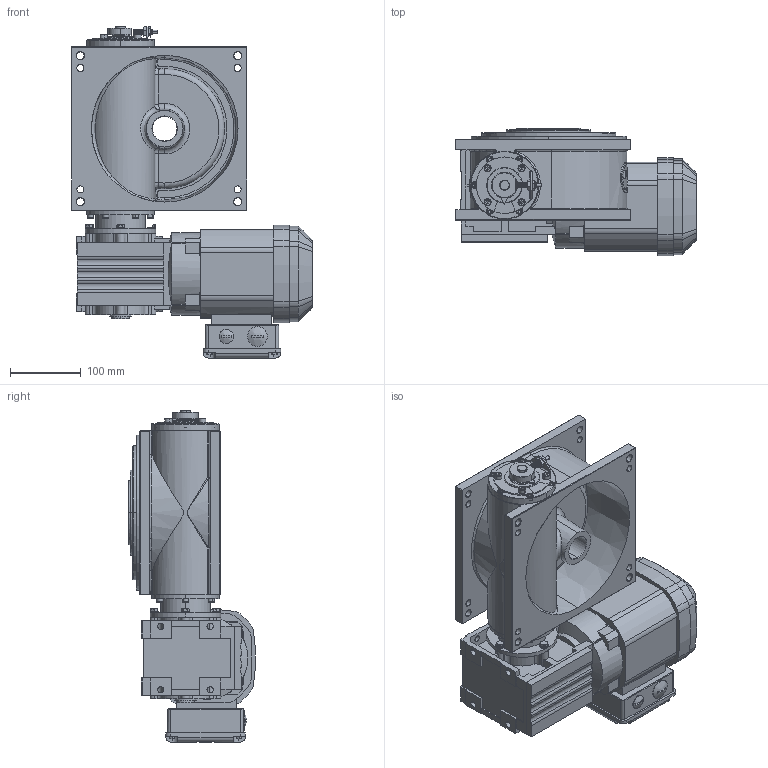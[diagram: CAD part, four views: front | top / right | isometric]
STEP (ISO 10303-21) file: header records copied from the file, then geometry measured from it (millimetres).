
FILE_DESCRIPTION (( 'STEP AP214' ), '1' );
FILE_NAME ('M190_SEW_WA30_E.STEP', '2021-01-25T15:19:10', ( '' ), ( '' ), 'SwSTEP 2.0', 'SolidWorks 2020', '' );
FILE_SCHEMA (( 'AUTOMOTIVE_DESIGN' ));
Length unit declared in the file: millimetre
Products named in the file (1): M190_SEW_WA30_E
Bounding box: 341.5 x 179.74 x 470.55 mm (x, y, z)
Surface area: 627541.2 mm2 (no closed solid volume)
Topology: 0 solids, 54 shells, 1238 faces, 3738 edges, 2467 vertices
Faces by surface type: plane 509, cylinder 417, cone 142, bspline 95, torus 63, sphere 12
Entity records: 64784 total; most frequent: CARTESIAN_POINT 18319, DIRECTION 6839, ORIENTED_EDGE 6473, EDGE_CURVE 3711, VERTEX_POINT 2467, AXIS2_PLACEMENT_3D 2446, LINE 1947, VECTOR 1947
